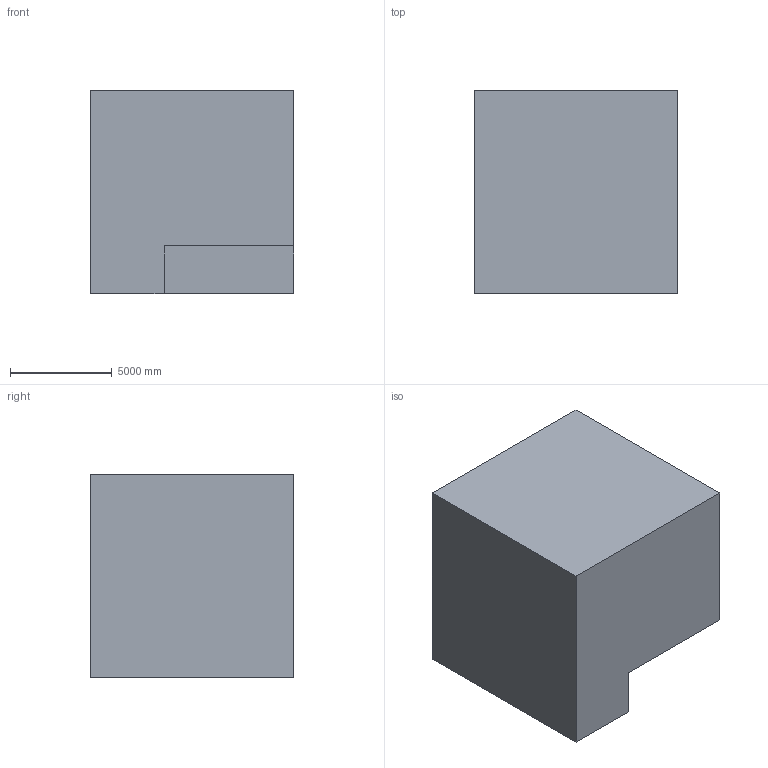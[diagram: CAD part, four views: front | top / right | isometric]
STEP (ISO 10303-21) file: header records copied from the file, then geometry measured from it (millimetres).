
FILE_DESCRIPTION (( 'STEP AP203' ), '1' );
FILE_NAME ('152.STEP', '2022-07-28T13:45:03', ( 'user' ), ( '' ), 'SwSTEP 2.0', 'SolidWorks 2021', '' );
FILE_SCHEMA (( 'CONFIG_CONTROL_DESIGN' ));
Length unit declared in the file: centimetre
Products named in the file (1): 152
Bounding box: 10000 x 10000 x 10000 mm (x, y, z)
Volume: 935974791814.6 mm3; surface area: 625440930 mm2
Topology: 1 solids, 1 shells, 16 faces, 39 edges, 26 vertices
Faces by surface type: plane 16
Entity records: 540 total; most frequent: CARTESIAN_POINT 82, ORIENTED_EDGE 78, DIRECTION 73, VECTOR 39, LINE 39, EDGE_CURVE 39, VERTEX_POINT 26, EDGE_LOOP 17
